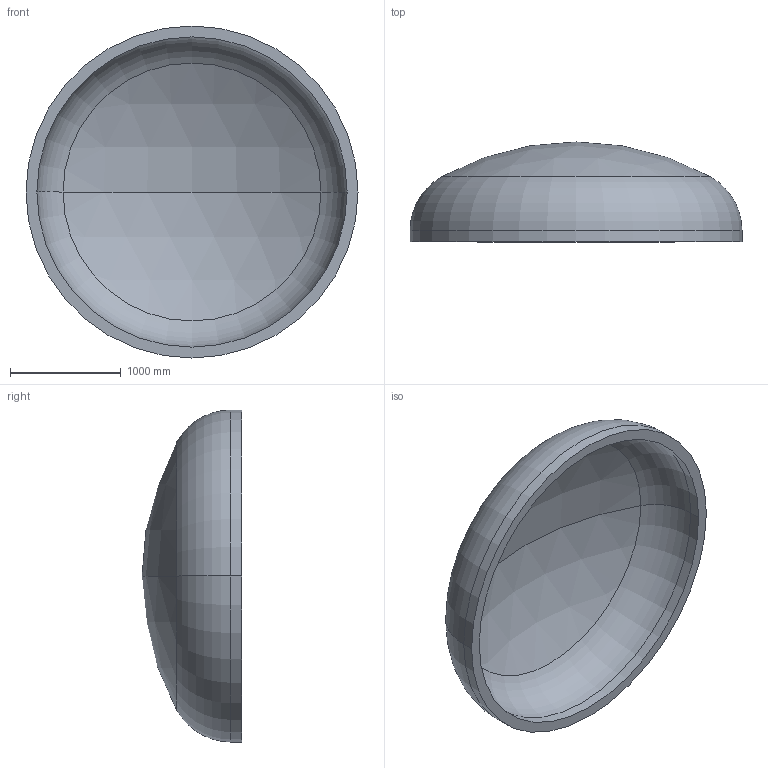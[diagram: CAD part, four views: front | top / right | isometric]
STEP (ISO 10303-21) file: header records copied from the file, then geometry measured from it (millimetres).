
FILE_DESCRIPTION (( 'STEP AP203' ), '1' );
FILE_NAME ('DIN 28013 Korbbogenform_-_Boden DIN 28013 - 3000 x 100 - I - s=98.step', '2016-07-01T18:06:20', ( '' ), ( '' ), 'SwSTEP 2.0', 'SolidWorks 2013', '' );
FILE_SCHEMA (( 'CONFIG_CONTROL_DESIGN' ));
Length unit declared in the file: millimetre
Products named in the file (1): DIN 28013 Korbbogenform_-_Boden DIN 28013 - 3000 x 100 - I - s=98
Bounding box: 3000 x 902.05 x 3000 mm (x, y, z)
Volume: 1007956118.6 mm3; surface area: 21484097.4 mm2
Topology: 1 solids, 1 shells, 13 faces, 24 edges, 14 vertices
Faces by surface type: torus 4, cylinder 4, sphere 4, plane 1
Entity records: 407 total; most frequent: DIRECTION 72, CARTESIAN_POINT 52, ORIENTED_EDGE 48, AXIS2_PLACEMENT_3D 34, EDGE_CURVE 24, CIRCLE 20, VERTEX_POINT 14, EDGE_LOOP 14
